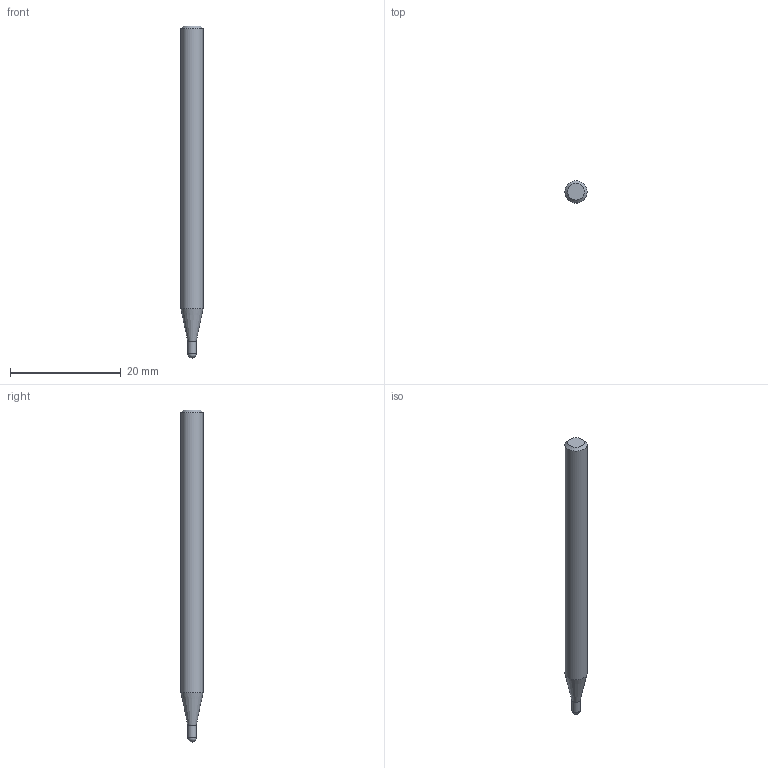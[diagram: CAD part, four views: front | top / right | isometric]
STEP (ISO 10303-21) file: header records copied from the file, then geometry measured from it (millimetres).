
FILE_DESCRIPTION((''),'2;1');
FILE_NAME('C:\Users\nsx150\AppData\Local\Temp\Mastercam 2021\EUJSUNXURU\TEMP.step','2021-04-22T10:22:44',(''),(''),'STEP Write','Mastercam 2021 ... CNC Software, Inc.','');
FILE_SCHEMA(('AUTOMOTIVE_DESIGN'));
Length unit declared in the file: millimetre
Products named in the file (1): None
Bounding box: 4 x 4 x 60 mm (x, y, z)
Volume: 683.1 mm3; surface area: 720.6 mm2
Topology: 2 solids, 2 shells, 8 faces, 12 edges, 7 vertices
Faces by surface type: plane 3, cylinder 2, cone 2, sphere 1
Full cylindrical faces by diameter (mm): 1.5 x1, 4 x1
Entity records: 190 total; most frequent: DIRECTION 32, CARTESIAN_POINT 22, AXIS2_PLACEMENT_3D 16, ORIENTED_EDGE 12, EDGE_LOOP 12, STYLED_ITEM 11, ADVANCED_FACE 8, VERTEX_POINT 6
